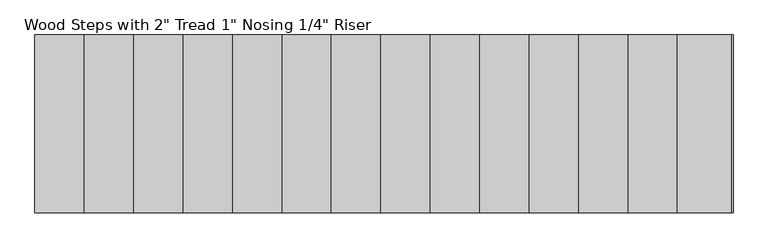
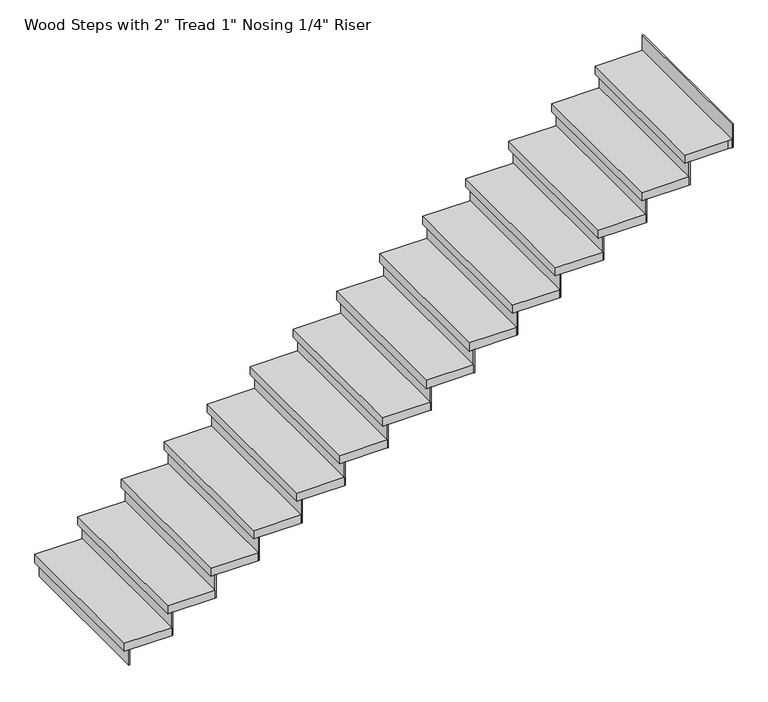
"""IFC4 building model written with IfcOpenShell, lengths in millimetres: stair flight geometry."""

from ifc_helpers import new_model, si_unit, frame, origin, origin_with_axes, place, context, project, spatial, polyline, outline, extrude, source, transform, mapped, element, save


def stair_flight_9d38373e(model_context):
    return source(origin(), model_context, "Body", "SweptSolid", [
        extrude(outline(polyline([(-50827.5885422, 6638.322839), (-50833.9385422, 6638.322839), (-50833.9385422, 7552.722839), (-50827.5885422, 7552.722839), (-50827.5885422, 6638.322839)])), origin_with_axes(), (0.0, 0.0, 1.0), 94.3428571),
        extrude(outline(polyline([(-50579.9385422, 7552.722839), (-50579.9385422, 6638.322839), (-50859.3385422, 6638.322839), (-50859.3385422, 7552.722839), (-50579.9385422, 7552.722839)])), frame((0.0, 0.0, 94.3428571), z_axis=(0.0, 0.0, 1.0), x_axis=(1.0, 0.0, 0.0)), (0.0, 0.0, 1.0), 50.8),
        extrude(outline(polyline([(-50573.5885422, 6638.322839), (-50579.9385422, 6638.322839), (-50579.9385422, 7552.722839), (-50573.5885422, 7552.722839), (-50573.5885422, 6638.322839)])), frame((0.0, 0.0, 94.3428571), z_axis=(0.0, 0.0, 1.0), x_axis=(1.0, 0.0, 0.0)), (0.0, 0.0, 1.0), 145.1428571),
        extrude(outline(polyline([(-50325.9385422, 7552.722839), (-50325.9385422, 6638.322839), (-50605.3385422, 6638.322839), (-50605.3385422, 7552.722839), (-50325.9385422, 7552.722839)])), frame((0.0, 0.0, 239.4857143), z_axis=(0.0, 0.0, 1.0), x_axis=(1.0, 0.0, 0.0)), (0.0, 0.0, 1.0), 50.8),
        extrude(outline(polyline([(-50319.5885422, 6638.322839), (-50325.9385422, 6638.322839), (-50325.9385422, 7552.722839), (-50319.5885422, 7552.722839), (-50319.5885422, 6638.322839)])), frame((0.0, 0.0, 239.4857143), z_axis=(0.0, 0.0, 1.0), x_axis=(1.0, 0.0, 0.0)), (0.0, 0.0, 1.0), 145.1428571),
        extrude(outline(polyline([(-50071.9385422, 7552.722839), (-50071.9385422, 6638.322839), (-50351.3385422, 6638.322839), (-50351.3385422, 7552.722839), (-50071.9385422, 7552.722839)])), frame((0.0, 0.0, 384.6285714), z_axis=(0.0, 0.0, 1.0), x_axis=(1.0, 0.0, 0.0)), (0.0, 0.0, 1.0), 50.8),
        extrude(outline(polyline([(-50065.5885422, 6638.322839), (-50071.9385422, 6638.322839), (-50071.9385422, 7552.722839), (-50065.5885422, 7552.722839), (-50065.5885422, 6638.322839)])), frame((0.0, 0.0, 384.6285714), z_axis=(0.0, 0.0, 1.0), x_axis=(1.0, 0.0, 0.0)), (0.0, 0.0, 1.0), 145.1428571),
        extrude(outline(polyline([(-49817.9385422, 7552.722839), (-49817.9385422, 6638.322839), (-50097.3385422, 6638.322839), (-50097.3385422, 7552.722839), (-49817.9385422, 7552.722839)])), frame((0.0, 0.0, 529.7714286), z_axis=(0.0, 0.0, 1.0), x_axis=(1.0, 0.0, 0.0)), (0.0, 0.0, 1.0), 50.8),
        extrude(outline(polyline([(-49811.5885422, 6638.322839), (-49817.9385422, 6638.322839), (-49817.9385422, 7552.722839), (-49811.5885422, 7552.722839), (-49811.5885422, 6638.322839)])), frame((0.0, 0.0, 529.7714286), z_axis=(0.0, 0.0, 1.0), x_axis=(1.0, 0.0, 0.0)), (0.0, 0.0, 1.0), 145.1428571),
        extrude(outline(polyline([(-49563.9385422, 7552.722839), (-49563.9385422, 6638.322839), (-49843.3385422, 6638.322839), (-49843.3385422, 7552.722839), (-49563.9385422, 7552.722839)])), frame((0.0, 0.0, 674.9142857), z_axis=(0.0, 0.0, 1.0), x_axis=(1.0, 0.0, 0.0)), (0.0, 0.0, 1.0), 50.8),
        extrude(outline(polyline([(-49557.5885422, 6638.322839), (-49563.9385422, 6638.322839), (-49563.9385422, 7552.722839), (-49557.5885422, 7552.722839), (-49557.5885422, 6638.322839)])), frame((0.0, 0.0, 674.9142857), z_axis=(0.0, 0.0, 1.0), x_axis=(1.0, 0.0, 0.0)), (0.0, 0.0, 1.0), 145.1428571),
        extrude(outline(polyline([(-49309.9385422, 7552.722839), (-49309.9385422, 6638.322839), (-49589.3385422, 6638.322839), (-49589.3385422, 7552.722839), (-49309.9385422, 7552.722839)])), frame((0.0, 0.0, 820.0571429), z_axis=(0.0, 0.0, 1.0), x_axis=(1.0, 0.0, 0.0)), (0.0, 0.0, 1.0), 50.8),
        extrude(outline(polyline([(-49303.5885422, 6638.322839), (-49309.9385422, 6638.322839), (-49309.9385422, 7552.722839), (-49303.5885422, 7552.722839), (-49303.5885422, 6638.322839)])), frame((0.0, 0.0, 820.0571429), z_axis=(0.0, 0.0, 1.0), x_axis=(1.0, 0.0, 0.0)), (0.0, 0.0, 1.0), 145.1428571),
        extrude(outline(polyline([(-49055.9385422, 7552.722839), (-49055.9385422, 6638.322839), (-49335.3385422, 6638.322839), (-49335.3385422, 7552.722839), (-49055.9385422, 7552.722839)])), frame((0.0, 0.0, 965.2), z_axis=(0.0, 0.0, 1.0), x_axis=(1.0, 0.0, 0.0)), (0.0, 0.0, 1.0), 50.8),
        extrude(outline(polyline([(-49049.5885422, 6638.322839), (-49055.9385422, 6638.322839), (-49055.9385422, 7552.722839), (-49049.5885422, 7552.722839), (-49049.5885422, 6638.322839)])), frame((0.0, 0.0, 965.2), z_axis=(0.0, 0.0, 1.0), x_axis=(1.0, 0.0, 0.0)), (0.0, 0.0, 1.0), 145.1428571),
        extrude(outline(polyline([(-48801.9385422, 7552.722839), (-48801.9385422, 6638.322839), (-49081.3385422, 6638.322839), (-49081.3385422, 7552.722839), (-48801.9385422, 7552.722839)])), frame((0.0, 0.0, 1110.3428571), z_axis=(0.0, 0.0, 1.0), x_axis=(1.0, 0.0, 0.0)), (0.0, 0.0, 1.0), 50.8),
        extrude(outline(polyline([(-48795.5885422, 6638.322839), (-48801.9385422, 6638.322839), (-48801.9385422, 7552.722839), (-48795.5885422, 7552.722839), (-48795.5885422, 6638.322839)])), frame((0.0, 0.0, 1110.3428571), z_axis=(0.0, 0.0, 1.0), x_axis=(1.0, 0.0, 0.0)), (0.0, 0.0, 1.0), 145.1428571),
        extrude(outline(polyline([(-48547.9385422, 7552.722839), (-48547.9385422, 6638.322839), (-48827.3385422, 6638.322839), (-48827.3385422, 7552.722839), (-48547.9385422, 7552.722839)])), frame((0.0, 0.0, 1255.4857143), z_axis=(0.0, 0.0, 1.0), x_axis=(1.0, 0.0, 0.0)), (0.0, 0.0, 1.0), 50.8),
        extrude(outline(polyline([(-48541.5885422, 6638.322839), (-48547.9385422, 6638.322839), (-48547.9385422, 7552.722839), (-48541.5885422, 7552.722839), (-48541.5885422, 6638.322839)])), frame((0.0, 0.0, 1255.4857143), z_axis=(0.0, 0.0, 1.0), x_axis=(1.0, 0.0, 0.0)), (0.0, 0.0, 1.0), 145.1428571),
        extrude(outline(polyline([(-48293.9385422, 7552.722839), (-48293.9385422, 6638.322839), (-48573.3385422, 6638.322839), (-48573.3385422, 7552.722839), (-48293.9385422, 7552.722839)])), frame((0.0, 0.0, 1400.6285714), z_axis=(0.0, 0.0, 1.0), x_axis=(1.0, 0.0, 0.0)), (0.0, 0.0, 1.0), 50.8),
        extrude(outline(polyline([(-48287.5885422, 6638.322839), (-48293.9385422, 6638.322839), (-48293.9385422, 7552.722839), (-48287.5885422, 7552.722839), (-48287.5885422, 6638.322839)])), frame((0.0, 0.0, 1400.6285714), z_axis=(0.0, 0.0, 1.0), x_axis=(1.0, 0.0, 0.0)), (0.0, 0.0, 1.0), 145.1428571),
        extrude(outline(polyline([(-48039.9385422, 7552.722839), (-48039.9385422, 6638.322839), (-48319.3385422, 6638.322839), (-48319.3385422, 7552.722839), (-48039.9385422, 7552.722839)])), frame((0.0, 0.0, 1545.7714286), z_axis=(0.0, 0.0, 1.0), x_axis=(1.0, 0.0, 0.0)), (0.0, 0.0, 1.0), 50.8),
        extrude(outline(polyline([(-48033.5885422, 6638.322839), (-48039.9385422, 6638.322839), (-48039.9385422, 7552.722839), (-48033.5885422, 7552.722839), (-48033.5885422, 6638.322839)])), frame((0.0, 0.0, 1545.7714286), z_axis=(0.0, 0.0, 1.0), x_axis=(1.0, 0.0, 0.0)), (0.0, 0.0, 1.0), 145.1428571),
        extrude(outline(polyline([(-47785.9385422, 7552.722839), (-47785.9385422, 6638.322839), (-48065.3385422, 6638.322839), (-48065.3385422, 7552.722839), (-47785.9385422, 7552.722839)])), frame((0.0, 0.0, 1690.9142857), z_axis=(0.0, 0.0, 1.0), x_axis=(1.0, 0.0, 0.0)), (0.0, 0.0, 1.0), 50.8),
        extrude(outline(polyline([(-47779.5885422, 6638.322839), (-47785.9385422, 6638.322839), (-47785.9385422, 7552.722839), (-47779.5885422, 7552.722839), (-47779.5885422, 6638.322839)])), frame((0.0, 0.0, 1690.9142857), z_axis=(0.0, 0.0, 1.0), x_axis=(1.0, 0.0, 0.0)), (0.0, 0.0, 1.0), 145.1428571),
        extrude(outline(polyline([(-47531.9385422, 7552.722839), (-47531.9385422, 6638.322839), (-47811.3385422, 6638.322839), (-47811.3385422, 7552.722839), (-47531.9385422, 7552.722839)])), frame((0.0, 0.0, 1836.0571429), z_axis=(0.0, 0.0, 1.0), x_axis=(1.0, 0.0, 0.0)), (0.0, 0.0, 1.0), 50.8),
        extrude(outline(polyline([(-47271.5885422, 6638.322839), (-47277.9385422, 6638.322839), (-47277.9385422, 7552.722839), (-47271.5885422, 7552.722839), (-47271.5885422, 6638.322839)])), frame((0.0, 0.0, 1981.2), z_axis=(0.0, 0.0, 1.0), x_axis=(1.0, 0.0, 0.0)), (0.0, 0.0, 1.0), 145.1428571),
        extrude(outline(polyline([(-47525.5885422, 6638.322839), (-47531.9385422, 6638.322839), (-47531.9385422, 7552.722839), (-47525.5885422, 7552.722839), (-47525.5885422, 6638.322839)])), frame((0.0, 0.0, 1836.0571429), z_axis=(0.0, 0.0, 1.0), x_axis=(1.0, 0.0, 0.0)), (0.0, 0.0, 1.0), 145.1428571),
        extrude(outline(polyline([(-47277.9385422, 7552.722839), (-47277.9385422, 6638.322839), (-47303.3385422, 6638.322839), (-47557.3385422, 6638.322839), (-47557.3385422, 7552.722839), (-47303.3385422, 7552.722839), (-47277.9385422, 7552.722839)])), frame((0.0, 0.0, 1981.2), z_axis=(0.0, 0.0, 1.0), x_axis=(1.0, 0.0, 0.0)), (0.0, 0.0, 1.0), 50.8),
    ])


if __name__ == "__main__":
    model = new_model("IFC4")
    model_context = context("Model", 3, world=origin())
    ifc_project = project(units=[si_unit("LENGTHUNIT", "METRE", prefix="MILLI")], contexts=[model_context])
    site = spatial("IfcSite", under=ifc_project)
    building = spatial("IfcBuilding", under=site)
    placement = place(None, origin())
    stair_flight_shape = stair_flight_9d38373e(model_context)
    element("IfcStairFlight", 1, ObjectType="Wood Steps with 2\" Tread 1\" Nosing 1/4\" Riser", at=placement, inside=building, context=model_context, shape_type="MappedRepresentation", body=[
        mapped(stair_flight_shape, transform((0.0, 0.0, 0.0), x_axis=(1.0, 0.0, 0.0), y_axis=(0.0, 1.0, 0.0), z_axis=(0.0, 0.0, 1.0))),
    ])
    save(model, "model.ifc")
